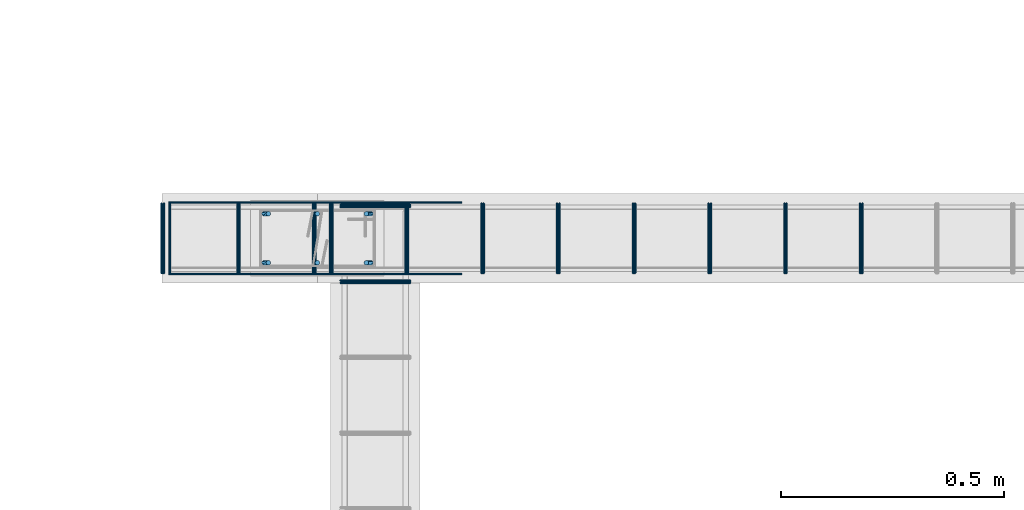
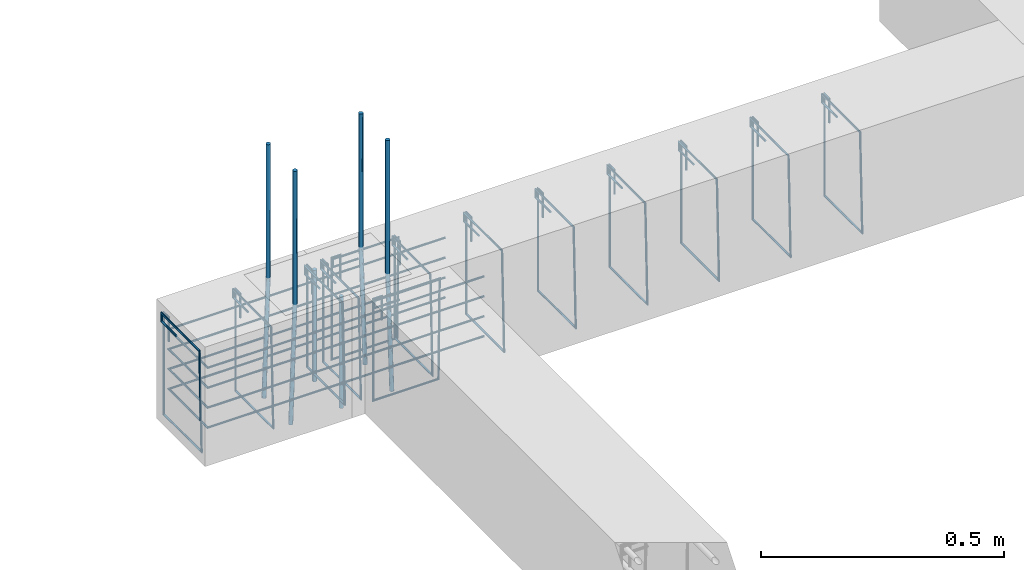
# One storey, part 57 of 150: 23 reinforcing bars.
"""IFC4 building model written with IfcOpenShell, lengths in centimetres."""

from ifc_helpers import new_model, entity, si_unit, derived_unit, frame, origin_with_axes, place, context, project, spatial, source, transform, mapped, element, save


model = new_model("IFC4")

# Units and contexts
model_context = context("Model", 3, precision=1e-05, world=origin_with_axes(), identifier="Body")
ifc_project = project(units=[si_unit("LENGTHUNIT", "METRE", prefix="CENTI"), si_unit("VOLUMEUNIT", "CUBIC_METRE"), si_unit("AREAUNIT", "SQUARE_METRE"), si_unit("POWERUNIT", "WATT"), si_unit("LUMINOUSFLUXUNIT", "LUMEN"), si_unit("ELECTRICCURRENTUNIT", "AMPERE"), si_unit("PRESSUREUNIT", "PASCAL", prefix="KILO"), si_unit("MASSUNIT", "GRAM", prefix="KILO"), si_unit("PLANEANGLEUNIT", "RADIAN"), derived_unit("VOLUMETRICFLOWRATEUNIT", [(si_unit("LENGTHUNIT", "METRE"), 3), (si_unit("TIMEUNIT", "SECOND"), -1)])], contexts=[model_context])

# Site, building, storey
site_placement = place(None, frame((-4000.0, 0.0, 0.0), z_axis=(0.0, 0.0, 1.0), x_axis=(1.0, 0.0, 0.0)))
site = spatial("IfcSite", under=ifc_project, at=site_placement, Name="PADRÃO")
building_placement = place(site_placement, frame((0.0, 0.0, -14.0)))
building = spatial("IfcBuilding", under=site, at=building_placement, Name="CRECHE PRÉ-ESCOLA TIPO 2")
placement = place(building_placement, origin_with_axes())
storey_placement = place(placement, frame((0.0, 0.0, 30.0), z_axis=(0.0, 0.0, 1.0), x_axis=(1.0, 0.0, 0.0)))
storey = spatial("IfcBuildingStorey", under=building, at=storey_placement, Name="VIGA BALDRAME", CompositionType="ELEMENT", Elevation=16.0)

# Reinforcing bars
shared_shape_1 = source(origin_with_axes(), model_context, "Body", "AdvancedSweptSolid", [
    entity("IfcSweptDiskSolid", entity("IfcCompositeCurve", [entity("IfcCompositeCurveSegment", "CONTINUOUS", True, entity("IfcPolyline", [entity("IfcCartesianPoint", [2.0, -6.0, 0.0]), entity("IfcCartesianPoint", [2.0, 0.0, 0.0])])), entity("IfcCompositeCurveSegment", "CONTINUOUS", True, entity("IfcPolyline", [entity("IfcCartesianPoint", [2.0, 0.0, 0.0]), entity("IfcCartesianPoint", [0.0, 0.0, 0.0])])), entity("IfcCompositeCurveSegment", "CONTINUOUS", True, entity("IfcPolyline", [entity("IfcCartesianPoint", [0.0, 0.0, 0.0]), entity("IfcCartesianPoint", [0.0, -25.5, 0.0])])), entity("IfcCompositeCurveSegment", "CONTINUOUS", True, entity("IfcPolyline", [entity("IfcCartesianPoint", [0.0, -25.5, 0.0]), entity("IfcCartesianPoint", [15.5, -25.5, 0.0])])), entity("IfcCompositeCurveSegment", "CONTINUOUS", True, entity("IfcPolyline", [entity("IfcCartesianPoint", [15.5, -25.5, 0.0]), entity("IfcCartesianPoint", [15.5, 0.0, 0.5])])), entity("IfcCompositeCurveSegment", "CONTINUOUS", True, entity("IfcPolyline", [entity("IfcCartesianPoint", [15.5, 0.0, 0.5]), entity("IfcCartesianPoint", [0.0, 0.0, 0.5])])), entity("IfcCompositeCurveSegment", "CONTINUOUS", True, entity("IfcPolyline", [entity("IfcCartesianPoint", [0.0, 0.0, 0.5]), entity("IfcCartesianPoint", [0.0, -2.0, 0.5])])), entity("IfcCompositeCurveSegment", "CONTINUOUS", True, entity("IfcPolyline", [entity("IfcCartesianPoint", [0.0, -2.0, 0.5]), entity("IfcCartesianPoint", [6.0, -2.0, 0.5])]))], False), 0.25),
])
for number, where, z_axis, x_axis, name in (
    (1, (271.25, 1822.5, -2.25), (0.0, -1.0, 0.0), (1.0, 0.0, 0.0), "V162 - Estribo"),
    (2, (271.25, 1805.5, -2.25), (0.0, -1.0, 0.0), (1.0, 0.0, 0.0), "V162 - Estribo"),
):
    element("IfcReinforcingBar", number, at=place(storey_placement, frame(where, z_axis=z_axis, x_axis=x_axis)), inside=storey, Name=name, BarLength=0.0, CrossSectionArea=1.9634954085e-05, NominalDiameter=0.5, PredefinedType="MAIN", context=model_context, shape_type="MappedRepresentation", body=[
        mapped(shared_shape_1, transform((0.0, 0.0, 0.0), scale=1.0)),
    ])
shared_shape_2 = source(origin_with_axes(), model_context, "Body", "AdvancedSweptSolid", [
    entity("IfcSweptDiskSolid", entity("IfcCompositeCurve", [entity("IfcCompositeCurveSegment", "CONTINUOUS", True, entity("IfcPolyline", [entity("IfcCartesianPoint", [2.0, -6.0, 0.0]), entity("IfcCartesianPoint", [2.0, 0.0, 0.0])])), entity("IfcCompositeCurveSegment", "CONTINUOUS", True, entity("IfcPolyline", [entity("IfcCartesianPoint", [2.0, 0.0, 0.0]), entity("IfcCartesianPoint", [0.0, 0.0, 0.0])])), entity("IfcCompositeCurveSegment", "CONTINUOUS", True, entity("IfcPolyline", [entity("IfcCartesianPoint", [0.0, 0.0, 0.0]), entity("IfcCartesianPoint", [0.0, -25.5, 0.0])])), entity("IfcCompositeCurveSegment", "CONTINUOUS", True, entity("IfcPolyline", [entity("IfcCartesianPoint", [0.0, -25.5, 0.0]), entity("IfcCartesianPoint", [15.5, -25.5, 0.0])])), entity("IfcCompositeCurveSegment", "CONTINUOUS", True, entity("IfcPolyline", [entity("IfcCartesianPoint", [15.5, -25.5, 0.0]), entity("IfcCartesianPoint", [15.5, 0.0, 0.5])])), entity("IfcCompositeCurveSegment", "CONTINUOUS", True, entity("IfcPolyline", [entity("IfcCartesianPoint", [15.5, 0.0, 0.5]), entity("IfcCartesianPoint", [0.0, 0.0, 0.5])])), entity("IfcCompositeCurveSegment", "CONTINUOUS", True, entity("IfcPolyline", [entity("IfcCartesianPoint", [0.0, 0.0, 0.5]), entity("IfcCartesianPoint", [0.0, -2.0, 0.5])])), entity("IfcCompositeCurveSegment", "CONTINUOUS", True, entity("IfcPolyline", [entity("IfcCartesianPoint", [0.0, -2.0, 0.5]), entity("IfcCartesianPoint", [6.0, -2.0, 0.5])]))], False), 0.25),
])
for number, where, z_axis, x_axis, name in (
    (3, (231.545, 1822.75, -2.25), (-1.0, 0.0, 0.0), (0.0, -1.0, 0.0), "V130 - Estribo"),
    (4, (265.545, 1822.75, -2.25), (-1.0, 0.0, 0.0), (0.0, -1.0, 0.0), "V130 - Estribo"),
    (5, (248.545, 1822.75, -2.25), (-1.0, 0.0, 0.0), (0.0, -1.0, 0.0), "V130 - Estribo"),
):
    element("IfcReinforcingBar", number, at=place(storey_placement, frame(where, z_axis=z_axis, x_axis=x_axis)), inside=storey, Name=name, BarLength=0.0, CrossSectionArea=1.9634954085e-05, NominalDiameter=0.5, PredefinedType="MAIN", context=model_context, shape_type="MappedRepresentation", body=[
        mapped(shared_shape_2, transform((0.0, 0.0, 0.0), scale=1.0)),
    ])
shared_shape_3 = source(origin_with_axes(), model_context, "Body", "AdvancedSweptSolid", [
    entity("IfcSweptDiskSolid", entity("IfcCompositeCurve", [entity("IfcCompositeCurveSegment", "CONTINUOUS", True, entity("IfcPolyline", [entity("IfcCartesianPoint", [2.0, -6.0, 0.0]), entity("IfcCartesianPoint", [2.0, 0.0, 0.0])])), entity("IfcCompositeCurveSegment", "CONTINUOUS", True, entity("IfcPolyline", [entity("IfcCartesianPoint", [2.0, 0.0, 0.0]), entity("IfcCartesianPoint", [0.0, 0.0, 0.0])])), entity("IfcCompositeCurveSegment", "CONTINUOUS", True, entity("IfcPolyline", [entity("IfcCartesianPoint", [0.0, 0.0, 0.0]), entity("IfcCartesianPoint", [0.0, -25.5, 0.0])])), entity("IfcCompositeCurveSegment", "CONTINUOUS", True, entity("IfcPolyline", [entity("IfcCartesianPoint", [0.0, -25.5, 0.0]), entity("IfcCartesianPoint", [15.5, -25.5, 0.0])])), entity("IfcCompositeCurveSegment", "CONTINUOUS", True, entity("IfcPolyline", [entity("IfcCartesianPoint", [15.5, -25.5, 0.0]), entity("IfcCartesianPoint", [15.5, 0.0, 0.5])])), entity("IfcCompositeCurveSegment", "CONTINUOUS", True, entity("IfcPolyline", [entity("IfcCartesianPoint", [15.5, 0.0, 0.5]), entity("IfcCartesianPoint", [0.0, 0.0, 0.5])])), entity("IfcCompositeCurveSegment", "CONTINUOUS", True, entity("IfcPolyline", [entity("IfcCartesianPoint", [0.0, 0.0, 0.5]), entity("IfcCartesianPoint", [0.0, -2.0, 0.5])])), entity("IfcCompositeCurveSegment", "CONTINUOUS", True, entity("IfcPolyline", [entity("IfcCartesianPoint", [0.0, -2.0, 0.5]), entity("IfcCartesianPoint", [6.0, -2.0, 0.5])]))], False), 0.25),
])
for number, where, z_axis, x_axis, name in (
    (6, (388.345, 1822.75, -2.25), (-1.0, 0.0, 0.0), (0.0, -1.0, 0.0), "V130 - Estribo"),
    (7, (320.345, 1822.75, -2.25), (-1.0, 0.0, 0.0), (0.0, -1.0, 0.0), "V130 - Estribo"),
    (8, (303.345, 1822.75, -2.25), (-1.0, 0.0, 0.0), (0.0, -1.0, 0.0), "V130 - Estribo"),
    (9, (286.345, 1822.75, -2.25), (-1.0, 0.0, 0.0), (0.0, -1.0, 0.0), "V130 - Estribo"),
    (10, (269.345, 1822.75, -2.25), (-1.0, 0.0, 0.0), (0.0, -1.0, 0.0), "V130 - Estribo"),
    (11, (354.345, 1822.75, -2.25), (-1.0, 0.0, 0.0), (0.0, -1.0, 0.0), "V130 - Estribo"),
    (12, (337.345, 1822.75, -2.25), (-1.0, 0.0, 0.0), (0.0, -1.0, 0.0), "V130 - Estribo"),
    (13, (371.345, 1822.75, -2.25), (-1.0, 0.0, 0.0), (0.0, -1.0, 0.0), "V130 - Estribo"),
):
    element("IfcReinforcingBar", number, at=place(storey_placement, frame(where, z_axis=z_axis, x_axis=x_axis)), inside=storey, Name=name, BarLength=0.0, CrossSectionArea=1.9634954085e-05, NominalDiameter=0.5, PredefinedType="MAIN", context=model_context, shape_type="MappedRepresentation", body=[
        mapped(shared_shape_3, transform((0.0, 0.0, 0.0), scale=1.0)),
    ])
shared_shape_4 = source(origin_with_axes(), model_context, "Body", "AdvancedSweptSolid", [
    entity("IfcSweptDiskSolid", entity("IfcCompositeCurve", [entity("IfcCompositeCurveSegment", "CONTINUOUS", True, entity("IfcPolyline", [entity("IfcCartesianPoint", [0.0, 0.0, 0.0]), entity("IfcCartesianPoint", [-65.6113828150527, 0.0, 0.0])])), entity("IfcCompositeCurveSegment", "CONTINUOUS", True, entity("IfcPolyline", [entity("IfcCartesianPoint", [-65.6113828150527, 0.0, 0.0]), entity("IfcCartesianPoint", [-65.6113828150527, -16.0, 0.0])])), entity("IfcCompositeCurveSegment", "CONTINUOUS", True, entity("IfcPolyline", [entity("IfcCartesianPoint", [-65.6113828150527, -16.0, 0.0]), entity("IfcCartesianPoint", [0.0, -16.0, 0.0])]))], False), 0.25),
])
for number, where, z_axis, x_axis, name in (
    (14, (298.451382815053, 1823.0, -17.0), (0.0, 0.0, 1.0), (1.0, 0.0, 0.0), "V130 - Grampo"),
    (15, (298.451382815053, 1823.0, -12.0), (0.0, 0.0, 1.0), (1.0, 0.0, 0.0), "V130 - Grampo"),
    (16, (298.451382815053, 1823.0, -7.0), (0.0, 0.0, 1.0), (1.0, 0.0, 0.0), "V130 - Grampo"),
    (17, (298.451382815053, 1823.0, -22.0), (0.0, 0.0, 1.0), (1.0, 0.0, 0.0), "V130 - Grampo"),
):
    element("IfcReinforcingBar", number, at=place(storey_placement, frame(where, z_axis=z_axis, x_axis=x_axis)), inside=storey, Name=name, BarLength=0.0, CrossSectionArea=1.9634954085e-05, NominalDiameter=0.5, PredefinedType="MAIN", context=model_context, shape_type="MappedRepresentation", body=[
        mapped(shared_shape_4, transform((0.0, 0.0, 0.0), scale=1.0)),
    ])
reinforcing_bar_1_placement = place(storey_placement, frame((266.0, 1809.5, -2.0), z_axis=(0.0, 0.0, 1.0), x_axis=(1.0, 0.0, 0.0)))
element("IfcReinforcingBar", 18, at=reinforcing_bar_1_placement, inside=storey, Name="P94 - Longitudinal", BarLength=0.0, CrossSectionArea=7.853981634e-05, NominalDiameter=1.0, PredefinedType="MAIN", context=model_context, shape_type="AdvancedSweptSolid", body=[
    entity("IfcSweptDiskSolid", entity("IfcCompositeCurve", [entity("IfcCompositeCurveSegment", "CONTINUOUS", True, entity("IfcPolyline", [entity("IfcCartesianPoint", [0.0, 0.0, -28.0]), entity("IfcCartesianPoint", [0.0, 0.0, 0.0])]))], False), 0.5),
])
for number, where, z_axis, x_axis, name in (
    (19, (277.499861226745, 1820.5, 33.3573001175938), (0.0, 0.0, 1.0), (1.0, 0.0, 0.0), "P94 - Longitudinal"),
    (20, (277.499861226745, 1809.5, 33.3573001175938), (0.0, 0.0, 1.0), (1.0, 0.0, 0.0), "P94 - Longitudinal"),
):
    element("IfcReinforcingBar", number, at=place(storey_placement, frame(where, z_axis=z_axis, x_axis=x_axis)), inside=storey, Name=name, BarLength=0.0, CrossSectionArea=7.853981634e-05, NominalDiameter=1.0, PredefinedType="MAIN", context=model_context, shape_type="AdvancedSweptSolid", body=[
        entity("IfcSweptDiskSolid", entity("IfcCompositeCurve", [entity("IfcCompositeCurveSegment", "CONTINUOUS", True, entity("IfcPolyline", [entity("IfcCartesianPoint", [0.50013877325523, 0.0, -63.3573001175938]), entity("IfcCartesianPoint", [-0.49986122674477, 0.0, -33.3573001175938])])), entity("IfcCompositeCurveSegment", "CONTINUOUS", True, entity("IfcPolyline", [entity("IfcCartesianPoint", [-0.49986122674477, 0.0, -33.3573001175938]), entity("IfcCartesianPoint", [-0.49986122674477, 0.0, 0.0])]))], False), 0.5),
    ])
reinforcing_bar_2_placement = place(storey_placement, frame((266.0, 1820.5, -2.0), z_axis=(0.0, 0.0, 1.0), x_axis=(1.0, 0.0, 0.0)))
element("IfcReinforcingBar", 21, at=reinforcing_bar_2_placement, inside=storey, Name="P94 - Longitudinal", BarLength=0.0, CrossSectionArea=7.853981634e-05, NominalDiameter=1.0, PredefinedType="MAIN", context=model_context, shape_type="AdvancedSweptSolid", body=[
    entity("IfcSweptDiskSolid", entity("IfcCompositeCurve", [entity("IfcCompositeCurveSegment", "CONTINUOUS", True, entity("IfcPolyline", [entity("IfcCartesianPoint", [0.0, 0.0, -28.0]), entity("IfcCartesianPoint", [0.0, 0.0, 0.0])]))], False), 0.5),
])
for number, where, z_axis, x_axis, name in (
    (22, (254.500138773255, 1809.5, 33.3573001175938), (0.0, 0.0, 1.0), (1.0, 0.0, 0.0), "P94 - Longitudinal"),
    (23, (254.500138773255, 1820.5, 33.3573001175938), (0.0, 0.0, 1.0), (1.0, 0.0, 0.0), "P94 - Longitudinal"),
):
    element("IfcReinforcingBar", number, at=place(storey_placement, frame(where, z_axis=z_axis, x_axis=x_axis)), inside=storey, Name=name, BarLength=0.0, CrossSectionArea=7.853981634e-05, NominalDiameter=1.0, PredefinedType="MAIN", context=model_context, shape_type="AdvancedSweptSolid", body=[
        entity("IfcSweptDiskSolid", entity("IfcCompositeCurve", [entity("IfcCompositeCurveSegment", "CONTINUOUS", True, entity("IfcPolyline", [entity("IfcCartesianPoint", [-0.50013877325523, 0.0, -63.3573001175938]), entity("IfcCartesianPoint", [0.49986122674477, 0.0, -33.3573001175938])])), entity("IfcCompositeCurveSegment", "CONTINUOUS", True, entity("IfcPolyline", [entity("IfcCartesianPoint", [0.49986122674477, 0.0, -33.3573001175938]), entity("IfcCartesianPoint", [0.49986122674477, 0.0, 0.0])]))], False), 0.5),
    ])

save(model, "model.ifc")
